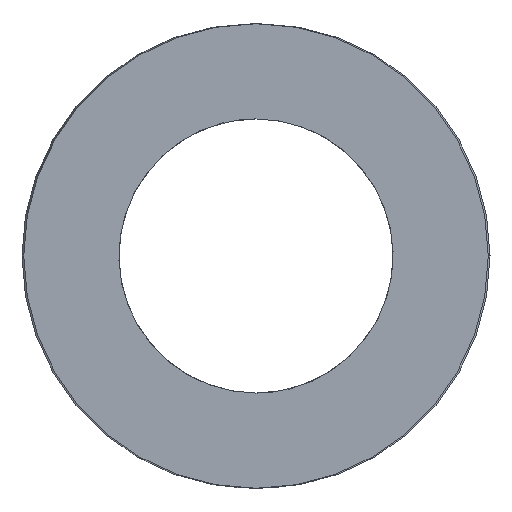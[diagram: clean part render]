
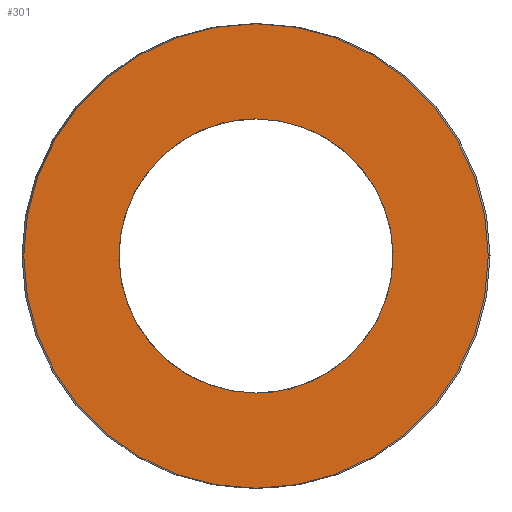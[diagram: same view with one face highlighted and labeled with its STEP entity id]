
A CAD part, left-side view. The second image highlights one B-rep face of the part: STEP entity #301.
In plain terms, the highlighted planar face has unit normal (-1, 0, 0).
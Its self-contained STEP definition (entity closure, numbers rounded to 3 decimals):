
#63=CARTESIAN_POINT('Vertex',(0.,6.1,0.)) ;
#77=CARTESIAN_POINT('Vertex',(0.,-6.1,0.)) ;
#80=CARTESIAN_POINT('Axis2P3D Location',(0.,0.,0.)) ;
#97=CARTESIAN_POINT('Axis2P3D Location',(0.,0.,0.)) ;
#232=CARTESIAN_POINT('Axis2P3D Location',(0.,3.05,0.)) ;
#242=CARTESIAN_POINT('Control Point',(0.,0.,-3.6)) ;
#243=CARTESIAN_POINT('Control Point',(0.,0.372,-3.6)) ;
#244=CARTESIAN_POINT('Control Point',(0.,0.744,-3.552)) ;
#245=CARTESIAN_POINT('Control Point',(0.,1.107,-3.456)) ;
#246=CARTESIAN_POINT('Control Point',(0.,1.801,-3.172)) ;
#247=CARTESIAN_POINT('Control Point',(0.,2.4,-2.722)) ;
#248=CARTESIAN_POINT('Control Point',(0.,2.669,-2.459)) ;
#249=CARTESIAN_POINT('Control Point',(0.,3.133,-1.869)) ;
#250=CARTESIAN_POINT('Control Point',(0.,3.431,-1.182)) ;
#251=CARTESIAN_POINT('Control Point',(0.,3.535,-0.82)) ;
#252=CARTESIAN_POINT('Control Point',(0.,3.647,-0.079)) ;
#253=CARTESIAN_POINT('Control Point',(0.,3.567,0.667)) ;
#254=CARTESIAN_POINT('Control Point',(0.,3.479,1.032)) ;
#255=CARTESIAN_POINT('Control Point',(0.,3.21,1.732)) ;
#256=CARTESIAN_POINT('Control Point',(0.,2.773,2.341)) ;
#257=CARTESIAN_POINT('Control Point',(0.,2.516,2.615)) ;
#258=CARTESIAN_POINT('Control Point',(0.,1.937,3.092)) ;
#259=CARTESIAN_POINT('Control Point',(0.,1.255,3.405)) ;
#260=CARTESIAN_POINT('Control Point',(0.,0.896,3.517)) ;
#261=CARTESIAN_POINT('Control Point',(0.,0.496,3.586)) ;
#262=CARTESIAN_POINT('Control Point',(0.,0.093,3.599)) ;
#263=CARTESIAN_POINT('Control Point',(0.,0.062,3.6)) ;
#264=CARTESIAN_POINT('Control Point',(0.,0.031,3.6)) ;
#265=CARTESIAN_POINT('Control Point',(0.,0.,3.6)) ;
#266=CARTESIAN_POINT('Vertex',(0.,0.,-3.6)) ;
#268=CARTESIAN_POINT('Vertex',(0.,0.,3.6)) ;
#272=CARTESIAN_POINT('Control Point',(0.,0.,3.6)) ;
#273=CARTESIAN_POINT('Control Point',(0.,-0.372,3.6)) ;
#274=CARTESIAN_POINT('Control Point',(0.,-0.744,3.552)) ;
#275=CARTESIAN_POINT('Control Point',(0.,-1.107,3.456)) ;
#276=CARTESIAN_POINT('Control Point',(0.,-1.801,3.172)) ;
#277=CARTESIAN_POINT('Control Point',(0.,-2.4,2.722)) ;
#278=CARTESIAN_POINT('Control Point',(0.,-2.669,2.459)) ;
#279=CARTESIAN_POINT('Control Point',(0.,-3.133,1.869)) ;
#280=CARTESIAN_POINT('Control Point',(0.,-3.431,1.182)) ;
#281=CARTESIAN_POINT('Control Point',(0.,-3.535,0.82)) ;
#282=CARTESIAN_POINT('Control Point',(0.,-3.647,0.079)) ;
#283=CARTESIAN_POINT('Control Point',(0.,-3.567,-0.667)) ;
#284=CARTESIAN_POINT('Control Point',(0.,-3.479,-1.032)) ;
#285=CARTESIAN_POINT('Control Point',(0.,-3.21,-1.732)) ;
#286=CARTESIAN_POINT('Control Point',(0.,-2.773,-2.341)) ;
#287=CARTESIAN_POINT('Control Point',(0.,-2.516,-2.615)) ;
#288=CARTESIAN_POINT('Control Point',(0.,-1.937,-3.092)) ;
#289=CARTESIAN_POINT('Control Point',(0.,-1.255,-3.405)) ;
#290=CARTESIAN_POINT('Control Point',(0.,-0.896,-3.517)) ;
#291=CARTESIAN_POINT('Control Point',(0.,-0.496,-3.586)) ;
#292=CARTESIAN_POINT('Control Point',(0.,-0.093,-3.599)) ;
#293=CARTESIAN_POINT('Control Point',(0.,-0.062,-3.6)) ;
#294=CARTESIAN_POINT('Control Point',(0.,-0.031,-3.6)) ;
#295=CARTESIAN_POINT('Control Point',(0.,0.,-3.6)) ;
#81=DIRECTION('Axis2P3D Direction',(1.,-0.,0.)) ;
#98=DIRECTION('Axis2P3D Direction',(1.,-0.,0.)) ;
#233=DIRECTION('Axis2P3D Direction',(-1.,0.,0.)) ;
#234=DIRECTION('Axis2P3D XDirection',(0.,1.,0.)) ;
#82=AXIS2_PLACEMENT_3D('Circle Axis2P3D',#80,#81,$) ;
#99=AXIS2_PLACEMENT_3D('Circle Axis2P3D',#97,#98,$) ;
#235=AXIS2_PLACEMENT_3D('Plane Axis2P3D',#232,#233,#234) ;
#238=ORIENTED_EDGE('',*,*,#84,.T.) ;
#239=ORIENTED_EDGE('',*,*,#101,.T.) ;
#298=ORIENTED_EDGE('',*,*,#270,.T.) ;
#299=ORIENTED_EDGE('',*,*,#296,.T.) ;
#300=FACE_BOUND('',#297,.T.) ;
#301=ADVANCED_FACE('392-B13-038',(#240,#300),#236,.T.) ;
#241=B_SPLINE_CURVE_WITH_KNOTS('',5,(#242,#243,#244,#245,#246,#247,#248,#249,#250,#251,#252,#253,#254,#255,#256,#257,#258,#259,#260,#261,#262,#263,#264,#265),.UNSPECIFIED.,.F.,.U.,(6,3,3,3,3,3,3,6),(0.,2.629,5.258,7.887,10.516,13.145,15.774,15.994),.UNSPECIFIED.) ;
#271=B_SPLINE_CURVE_WITH_KNOTS('',5,(#272,#273,#274,#275,#276,#277,#278,#279,#280,#281,#282,#283,#284,#285,#286,#287,#288,#289,#290,#291,#292,#293,#294,#295),.UNSPECIFIED.,.F.,.U.,(6,3,3,3,3,3,3,6),(0.,2.629,5.258,7.887,10.516,13.145,15.774,15.994),.UNSPECIFIED.) ;
#83=CIRCLE('generated circle',#82,6.1) ;
#100=CIRCLE('generated circle',#99,6.1) ;
#84=EDGE_CURVE('',#64,#78,#83,.F.) ;
#101=EDGE_CURVE('',#78,#64,#100,.F.) ;
#270=EDGE_CURVE('',#267,#269,#241,.T.) ;
#296=EDGE_CURVE('',#269,#267,#271,.T.) ;
#237=EDGE_LOOP('',(#238,#239)) ;
#297=EDGE_LOOP('',(#298,#299)) ;
#240=FACE_OUTER_BOUND('',#237,.T.) ;
#236=PLANE('Plane',#235) ;
#64=VERTEX_POINT('',#63) ;
#78=VERTEX_POINT('',#77) ;
#267=VERTEX_POINT('',#266) ;
#269=VERTEX_POINT('',#268) ;
